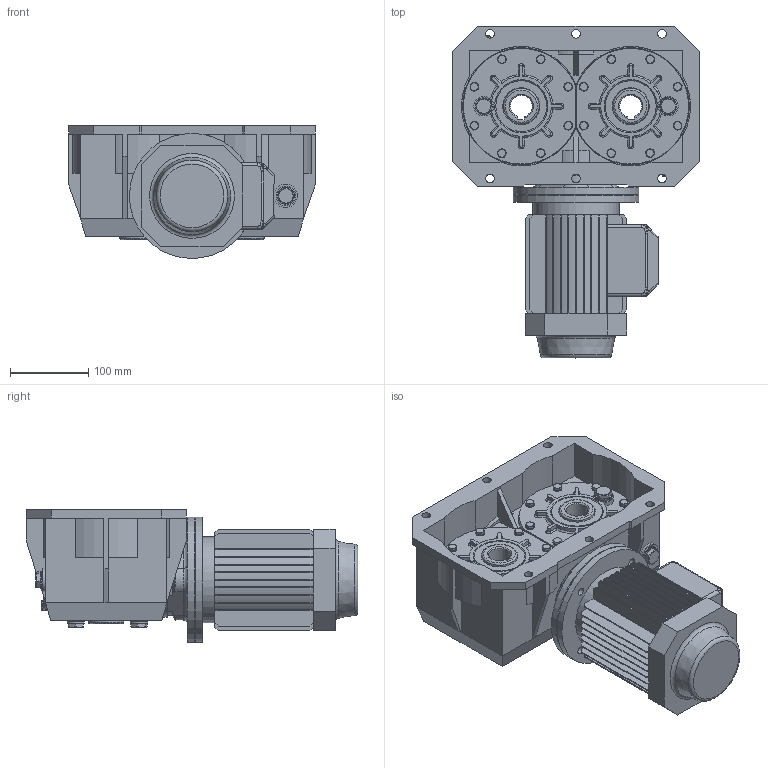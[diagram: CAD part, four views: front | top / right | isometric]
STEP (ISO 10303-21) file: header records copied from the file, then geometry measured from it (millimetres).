
FILE_DESCRIPTION((''),'2;1');
FILE_NAME('Y:\Archivi Inventor\Prog_07\int.140\Figurini\MRV2U 140 sito\MRV1403U_71_b5.stp','2013-02-14T14:07:24',('tech3'),(''),'Autodesk Inventor 2013','Autodesk Inventor 2013','');
FILE_SCHEMA(('AUTOMOTIVE_DESIGN { 1 0 10303 214 1 1 1 1 }'));
Length unit declared in the file: millimetre
Products named in the file (17): Figurino MRV_ 2U 140; Fig_Carcassa MRV-2U 140; Fig_0714002; 0103028; 0103029; 0104028; 0104006; 0103009; Fig_0103008-101; PARAOLIO 35x47x8; PARAOLIO 45x65x10; Guarnizione 3_8 GAS; Tappo3_8 GAS; UNI 5739 M8 x 20; UNI 5739 M6 x 20; UNI 5931 M 8 x  25; motori B5 71
Assembly tree (53 placements, depth 2):
  Figurino MRV_ 2U 140
    Fig_Carcassa MRV-2U 140
    Fig_0714002  x2
    0103028
    0103029  x2
    0104028
    0104006
    0103009
    Fig_0103008-101  x2
    PARAOLIO 35x47x8
    PARAOLIO 45x65x10  x4
    Guarnizione 3_8 GAS  x6
    Tappo3_8 GAS  x6
    UNI 5739 M8 x 20  x4
    UNI 5739 M6 x 20  x16
    UNI 5931 M 8 x  25  x4
    motori B5 71
Bounding box: 315 x 424.35 x 170 mm (x, y, z)
Volume: 6964773.6 mm3; surface area: 1015642.1 mm2
Topology: 53 solids, 57 shells, 2042 faces, 4808 edges, 2989 vertices
Faces by surface type: plane 1070, cylinder 560, cone 207, torus 95, bspline 58, sphere 52
Full cylindrical faces by diameter (mm): 4.917 x16, 6 x16, 6.5 x32, 6.647 x8, 8 x8, 8.5 x16, 8.88 x16, 9 x4, 10 x4, 11 x22, 11.63 x4, 13 x4, 13.046 x6, 14 x1, 14.95 x6, 16.3 x6, 22 x12, 25 x4, 30 x3, 34 x1, 39.605 x1, 41.938 x2, 43.5 x1, 45 x4, 47 x2, 50 x2, 50.881 x4, 52 x3, 60.5 x4, 62 x3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
Entity records: 41219 total; most frequent: CARTESIAN_POINT 10399, DIRECTION 6394, ORIENTED_EDGE 5816, EDGE_CURVE 2908, AXIS2_PLACEMENT_3D 2373, VERTEX_POINT 1918, VECTOR 1648, LINE 1648
